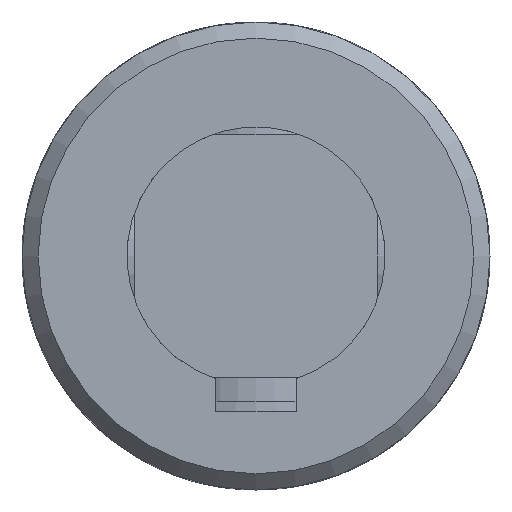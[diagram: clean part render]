
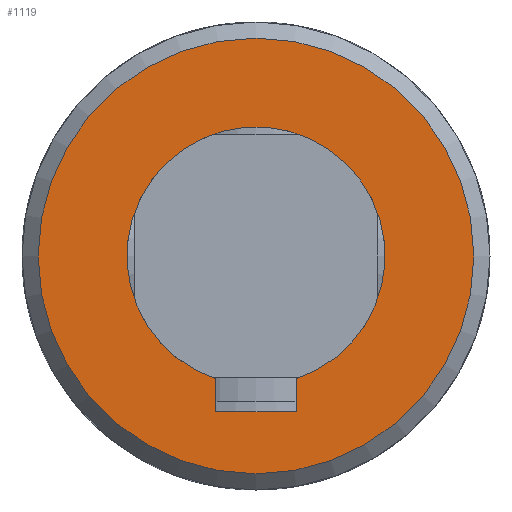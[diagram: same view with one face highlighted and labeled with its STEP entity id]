
A CAD part, front view. The second image highlights one B-rep face of the part: STEP entity #1119.
In plain terms, the highlighted planar face has unit normal (0, -1, 0).
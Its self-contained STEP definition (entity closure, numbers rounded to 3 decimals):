
#127=LINE('',#2032,#170);
#130=LINE('',#2049,#173);
#132=LINE('',#2055,#175);
#170=VECTOR('',#1450,4.101);
#173=VECTOR('',#1455,10.);
#175=VECTOR('',#1461,4.101);
#214=PLANE('',#1232);
#253=FACE_BOUND('',#406,.T.);
#308=FACE_OUTER_BOUND('',#405,.T.);
#405=EDGE_LOOP('',(#954));
#406=EDGE_LOOP('',(#955,#956,#957,#958));
#468=CIRCLE('',#1227,16.);
#470=CIRCLE('',#1230,27.);
#551=VERTEX_POINT('',#2029);
#552=VERTEX_POINT('',#2031);
#554=VERTEX_POINT('',#2047);
#556=VERTEX_POINT('',#2053);
#562=VERTEX_POINT('',#2129);
#683=EDGE_CURVE('',#552,#551,#127,.T.);
#687=EDGE_CURVE('',#551,#554,#130,.T.);
#690=EDGE_CURVE('',#554,#556,#132,.T.);
#696=EDGE_CURVE('',#556,#552,#468,.T.);
#698=EDGE_CURVE('',#562,#562,#470,.T.);
#954=ORIENTED_EDGE('',*,*,#698,.F.);
#955=ORIENTED_EDGE('',*,*,#683,.T.);
#956=ORIENTED_EDGE('',*,*,#687,.T.);
#957=ORIENTED_EDGE('',*,*,#690,.T.);
#958=ORIENTED_EDGE('',*,*,#696,.T.);
#1119=ADVANCED_FACE('',(#308,#253),#214,.F.);
#1227=AXIS2_PLACEMENT_3D('',#2125,#1470,#1471);
#1230=AXIS2_PLACEMENT_3D('',#2130,#1476,#1477);
#1232=AXIS2_PLACEMENT_3D('',#2338,#1484,#1485);
#1450=DIRECTION('',(0.,0.,-1.));
#1455=DIRECTION('',(-1.,0.,0.));
#1461=DIRECTION('',(0.,0.,1.));
#1470=DIRECTION('center_axis',(0.,1.,0.));
#1471=DIRECTION('ref_axis',(-0.313,0.,0.95));
#1476=DIRECTION('center_axis',(0.,1.,0.));
#1477=DIRECTION('ref_axis',(1.,0.,0.));
#1484=DIRECTION('center_axis',(0.,1.,0.));
#1485=DIRECTION('ref_axis',(0.,0.,1.));
#2029=CARTESIAN_POINT('',(5.,-79.5,-19.3));
#2031=CARTESIAN_POINT('',(5.,-79.5,-15.199));
#2032=CARTESIAN_POINT('',(5.,-79.5,-7.599));
#2047=CARTESIAN_POINT('',(-5.,-79.5,-19.3));
#2049=CARTESIAN_POINT('',(2.5,-79.5,-19.3));
#2053=CARTESIAN_POINT('',(-5.,-79.5,-15.199));
#2055=CARTESIAN_POINT('',(-5.,-79.5,-9.65));
#2125=CARTESIAN_POINT('Origin',(0.,-79.5,0.));
#2129=CARTESIAN_POINT('',(-27.,-79.5,0.));
#2130=CARTESIAN_POINT('Origin',(0.,-79.5,0.));
#2338=CARTESIAN_POINT('Origin',(0.,-79.5,0.));
